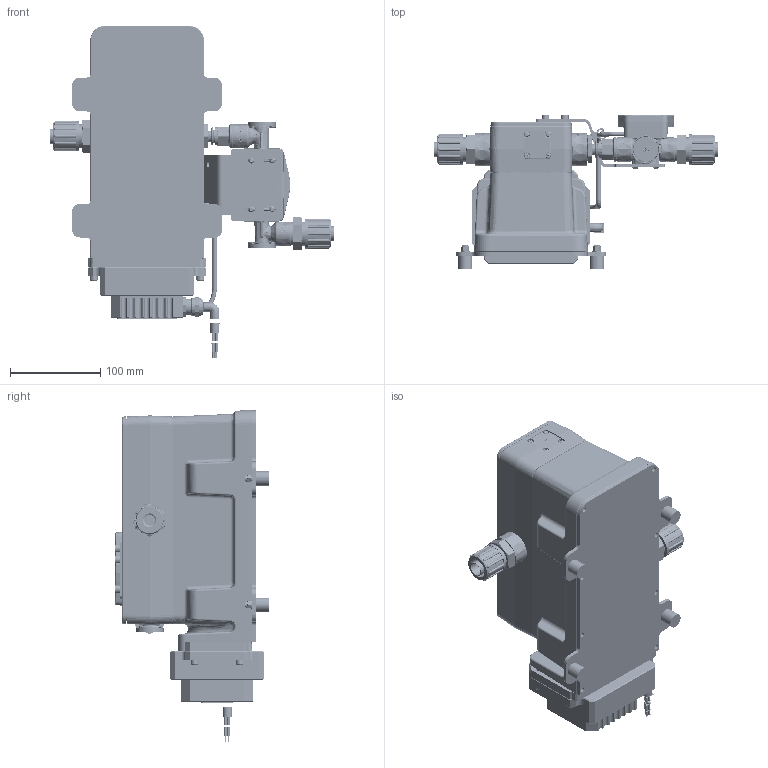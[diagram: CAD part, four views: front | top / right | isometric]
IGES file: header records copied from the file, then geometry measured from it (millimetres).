
Start section:  PTC IGES file: fms-fc1-1100-schrumpf.igs
Global section: file name: fms-fc1-1100-schrumpf.igs; native system: Creo Parametric by PTC Inc.; preprocessor: 2024401; author: DommenR; organization: Unknown; date: 20260601.121249; units: millimetre
Bounding box: 314.6 x 171.56 x 367.9 mm (x, y, z)
Surface area: 383640.8 mm2 (no closed solid volume)
Topology: 0 solids, 0 shells, 13409 faces, 67354 edges, 67157 vertices
Faces by surface type: bspline 7101, revolution 5003, extrusion 1305
